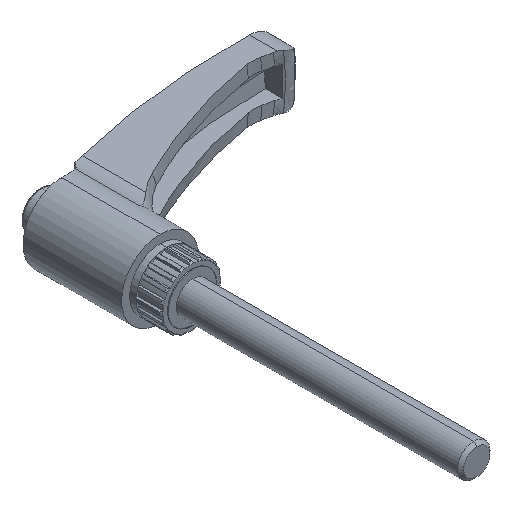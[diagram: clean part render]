
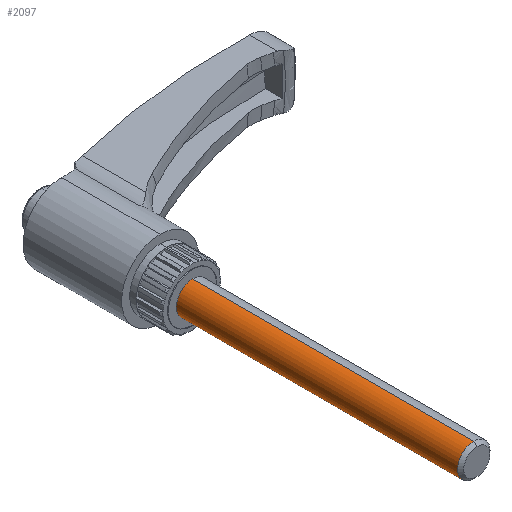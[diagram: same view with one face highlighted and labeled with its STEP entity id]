
A CAD part, isometric view. The second image highlights one B-rep face of the part: STEP entity #2097.
In plain terms, the highlighted cylindrical face has radius 4 mm (diameter 8 mm), a partial arc.
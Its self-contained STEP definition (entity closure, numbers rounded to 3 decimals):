
#13 = FACE_OUTER_BOUND ( 'NONE', #5840, .T. ) ;
#53 = CARTESIAN_POINT ( 'NONE',  ( 0., -78., -4. ) ) ;
#251 = EDGE_CURVE ( 'NONE', #1913, #1981, #5582, .T. ) ;
#521 = LINE ( 'NONE', #53, #2595 ) ;
#573 = CARTESIAN_POINT ( 'NONE',  ( 0., -8., 0. ) ) ;
#600 = DIRECTION ( 'NONE',  ( 0., 0., -1. ) ) ;
#769 = EDGE_CURVE ( 'NONE', #3986, #3203, #521, .T. ) ;
#914 = CARTESIAN_POINT ( 'NONE',  ( 0., -77.233, 4. ) ) ;
#1082 = DIRECTION ( 'NONE',  ( 0., 1., 0. ) ) ;
#1441 = DIRECTION ( 'NONE',  ( 0., -1., 0. ) ) ;
#1678 = EDGE_CURVE ( 'NONE', #3203, #1981, #2246, .T. ) ;
#1783 = CARTESIAN_POINT ( 'NONE',  ( 0., -78., 4. ) ) ;
#1913 = VERTEX_POINT ( 'NONE', #5539 ) ;
#1981 = VERTEX_POINT ( 'NONE', #914 ) ;
#2097 = ADVANCED_FACE ( 'NONE', ( #13 ), #4312, .T. ) ;
#2246 = CIRCLE ( 'NONE', #5770, 4. ) ;
#2493 = DIRECTION ( 'NONE',  ( 0., -1., 0. ) ) ;
#2550 = EDGE_CURVE ( 'NONE', #1913, #3986, #3850, .T. ) ;
#2556 = CARTESIAN_POINT ( 'NONE',  ( 0., -77.233, -4. ) ) ;
#2595 = VECTOR ( 'NONE', #1441, 1000. ) ;
#3121 = VECTOR ( 'NONE', #4700, 1000. ) ;
#3203 = VERTEX_POINT ( 'NONE', #2556 ) ;
#3325 = AXIS2_PLACEMENT_3D ( 'NONE', #5953, #4952, #6010 ) ;
#3850 = CIRCLE ( 'NONE', #5766, 4. ) ;
#3972 = CARTESIAN_POINT ( 'NONE',  ( 0., -77.233, 0. ) ) ;
#3986 = VERTEX_POINT ( 'NONE', #4655 ) ;
#4165 = ORIENTED_EDGE ( 'NONE', *, *, #769, .T. ) ;
#4217 = ORIENTED_EDGE ( 'NONE', *, *, #1678, .T. ) ;
#4312 = CYLINDRICAL_SURFACE ( 'NONE', #3325, 4. ) ;
#4469 = ORIENTED_EDGE ( 'NONE', *, *, #2550, .T. ) ;
#4655 = CARTESIAN_POINT ( 'NONE',  ( 0., -8., -4. ) ) ;
#4700 = DIRECTION ( 'NONE',  ( 0., -1., 0. ) ) ;
#4887 = DIRECTION ( 'NONE',  ( 0., 0., -1. ) ) ;
#4952 = DIRECTION ( 'NONE',  ( 0., -1., 0. ) ) ;
#5074 = ORIENTED_EDGE ( 'NONE', *, *, #251, .F. ) ;
#5539 = CARTESIAN_POINT ( 'NONE',  ( 0., -8., 4. ) ) ;
#5582 = LINE ( 'NONE', #1783, #3121 ) ;
#5766 = AXIS2_PLACEMENT_3D ( 'NONE', #573, #2493, #600 ) ;
#5770 = AXIS2_PLACEMENT_3D ( 'NONE', #3972, #1082, #4887 ) ;
#5840 = EDGE_LOOP ( 'NONE', ( #5074, #4469, #4165, #4217 ) ) ;
#5953 = CARTESIAN_POINT ( 'NONE',  ( 0., -78., 0. ) ) ;
#6010 = DIRECTION ( 'NONE',  ( 0., 0., -1. ) ) ;
